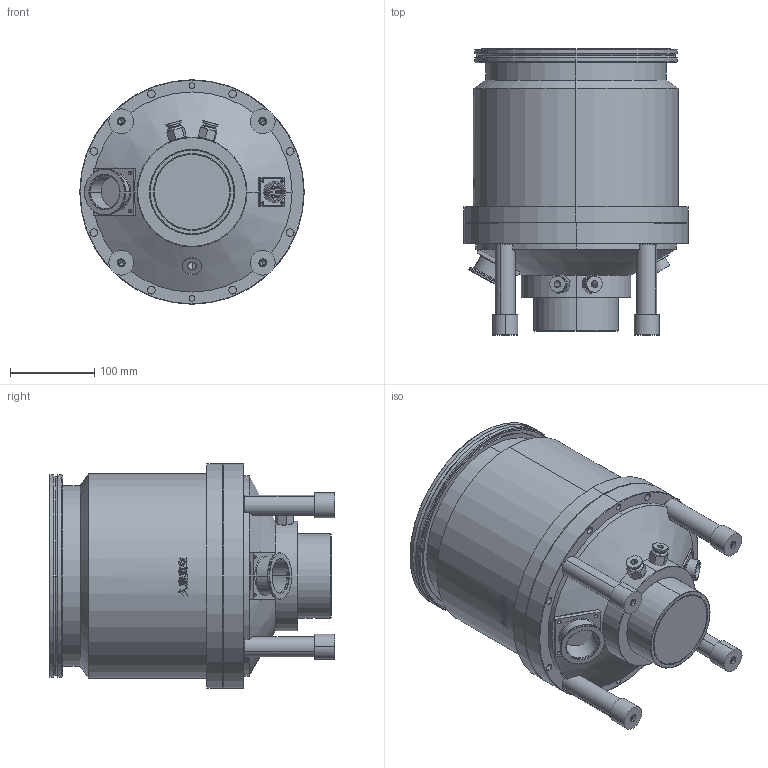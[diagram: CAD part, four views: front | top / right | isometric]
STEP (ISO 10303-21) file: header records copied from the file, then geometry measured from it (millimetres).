
FILE_DESCRIPTION (( 'STEP AP203' ), '1' );
FILE_NAME ('ISO1300JZ-00W.STEP', '2025-03-29T07:11:23', ( 'User' ), ( 'China' ), 'SwSTEP 2.0', 'SolidWorks 2016', '' );
FILE_SCHEMA (( 'CONFIG_CONTROL_DESIGN' ));
Length unit declared in the file: millimetre
Products named in the file (11): JTFB1300Z-01W_1; JTFB1300Z-02W_1; SJJTB-1200J-14-01-01｣ﾗ; JTFB1300J-18-01-00｣ﾗ; JTFB1300J-18-00W; SJJTB-600-02A_1; SJJTB-600-15_1; 600蝶杶_1; 萇埭諉芛_1; 阨郲_1; ISO1300JZ-00W
Assembly tree (17 placements, depth 4):
  ISO1300JZ-00W
    JTFB1300Z-01W_1
    JTFB1300Z-02W_1
    JTFB1300J-18-00W
      JTFB1300J-18-01-00｣ﾗ
        SJJTB-1200J-14-01-01｣ﾗ
    SJJTB-600-02A_1
    SJJTB-600-15_1  x4
    600蝶杶_1  x4
    萇埭諉芛_1
    阨郲_1  x2
Bounding box: 266 x 338.75 x 266 mm (x, y, z)
Volume: 10305051.6 mm3; surface area: 656977.7 mm2
Topology: 14 solids, 19 shells, 773 faces, 1900 edges, 1205 vertices
Faces by surface type: cylinder 280, plane 190, bspline 141, cone 134, torus 28
Entity records: 44798 total; most frequent: CARTESIAN_POINT 29006, ORIENTED_EDGE 3168, DIRECTION 2692, EDGE_CURVE 1585, AXIS2_PLACEMENT_3D 1137, VERTEX_POINT 1035, EDGE_LOOP 773, FACE_OUTER_BOUND 647
